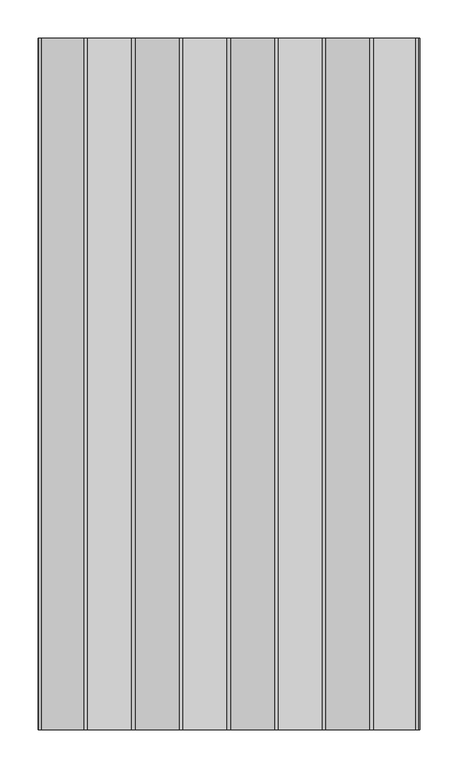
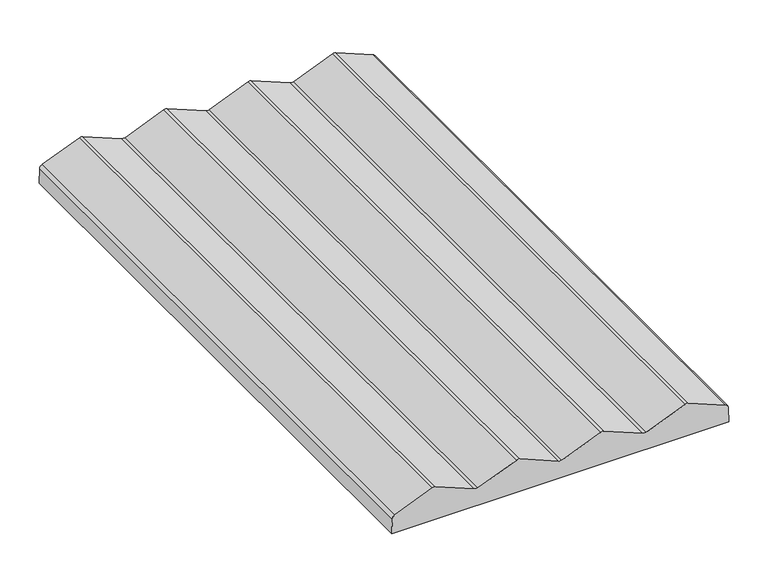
"""IFC4 building model written with IfcOpenShell, lengths in millimetres: proxy geometry, Wall-Panel-Kirei-Ascent_Tiles : Ascent Tile."""

from ifc_helpers import new_model, si_unit, point, frame, frame_2d, origin, place, context, project, spatial, polyline, circle_curve, trimmed, segment, composite_curve, outline, extrude, source, transform, mapped, element, save


def specialty_equipment_65d920d4(model_context):
    return source(origin(), model_context, "Body", "SweptSolid", [
        extrude(outline(composite_curve([segment(polyline([(0.0, -111.7203125), (22.1777457, -112.4947764)]), True, "CONTINUOUS"), segment(trimmed(circle_curve(frame_2d((21.9561339, -118.8409082)), 6.35), [point((22.1777457, -112.4947764))], [point((27.8353334, -116.4414262))], False, "CARTESIAN"), True, "CONTINUOUS"), segment(polyline([(27.8353334, -116.4414262), (50.3291995, -171.5557915)]), True, "CONTINUOUS"), segment(trimmed(circle_curve(frame_2d((44.45, -173.9552734)), 6.35), [point((50.3291995, -171.5557915))], [point((50.3291995, -176.3547554))], False, "CARTESIAN"), True, "CONTINUOUS"), segment(polyline([(50.3291995, -176.3547554), (26.8878041, -233.7907524)]), True, "CONTINUOUS"), segment(trimmed(circle_curve(frame_2d((32.7670036, -236.1902344)), 6.35), [point((26.8878041, -233.7907524))], [point((26.8878041, -238.5897163))], True, "CARTESIAN"), True, "CONTINUOUS"), segment(polyline([(26.8878041, -238.5897163), (50.3291995, -296.0257133)]), True, "CONTINUOUS"), segment(trimmed(circle_curve(frame_2d((44.45, -298.4251953)), 6.35), [point((50.3291995, -296.0257133))], [point((50.3291995, -300.8246773))], False, "CARTESIAN"), True, "CONTINUOUS"), segment(polyline([(50.3291995, -300.8246773), (26.8878041, -358.2606743)]), True, "CONTINUOUS"), segment(trimmed(circle_curve(frame_2d((32.7670036, -360.6601562)), 6.35), [point((26.8878041, -358.2606743))], [point((26.8878041, -363.0596382))], True, "CARTESIAN"), True, "CONTINUOUS"), segment(polyline([(26.8878041, -363.0596382), (50.3291995, -420.4956352)]), True, "CONTINUOUS"), segment(trimmed(circle_curve(frame_2d((44.45, -422.8951172)), 6.35), [point((50.3291995, -420.4956352))], [point((50.3291995, -425.2945992))], False, "CARTESIAN"), True, "CONTINUOUS"), segment(polyline([(50.3291995, -425.2945992), (26.8878041, -482.7305962)]), True, "CONTINUOUS"), segment(trimmed(circle_curve(frame_2d((32.7670036, -485.1300781)), 6.35), [point((26.8878041, -482.7305962))], [point((26.8878041, -487.5295601))], True, "CARTESIAN"), True, "CONTINUOUS"), segment(polyline([(26.8878041, -487.5295601), (50.3291995, -544.9655571)]), True, "CONTINUOUS"), segment(trimmed(circle_curve(frame_2d((44.45, -547.3650391)), 6.35), [point((50.3291995, -544.9655571))], [point((50.3291995, -549.764521))], False, "CARTESIAN"), True, "CONTINUOUS"), segment(polyline([(50.3291995, -549.764521), (27.8353334, -604.8788863)]), True, "CONTINUOUS"), segment(trimmed(circle_curve(frame_2d((21.9561339, -602.4794043)), 6.35), [point((27.8353334, -604.8788863))], [point((22.1777457, -608.8255361))], False, "CARTESIAN"), True, "CONTINUOUS"), segment(polyline([(22.1777457, -608.8255361), (0.0, -609.6), (0.0, -111.7203125)]), True, "CONTINUOUS")], self_intersect=False)), frame((0.0, -450.85, 0.0), z_axis=(0.0, 1.0, 0.0), x_axis=(0.0, 0.0, 1.0)), (0.0, 0.0, 1.0), 901.7),
    ])


if __name__ == "__main__":
    model = new_model("IFC4")
    model_context = context("Model", 3, world=origin())
    ifc_project = project(units=[si_unit("LENGTHUNIT", "METRE", prefix="MILLI")], contexts=[model_context])
    site = spatial("IfcSite", under=ifc_project)
    building = spatial("IfcBuilding", under=site)
    placement = place(None, origin())
    specialty_equipment_shape = specialty_equipment_65d920d4(model_context)
    element("IfcBuildingElementProxy", 1, Name="Wall-Panel-Kirei-Ascent_Tiles : Ascent Tile", ObjectType="Wall-Panel-Kirei-Ascent_Tiles : Ascent Tile", at=placement, inside=building, context=model_context, shape_type="MappedRepresentation", body=[
        mapped(specialty_equipment_shape, transform((0.0, 0.0, 0.0), x_axis=(1.0, 0.0, 0.0), y_axis=(0.0, 1.0, 0.0), z_axis=(0.0, 0.0, 1.0))),
    ])
    save(model, "model.ifc")
